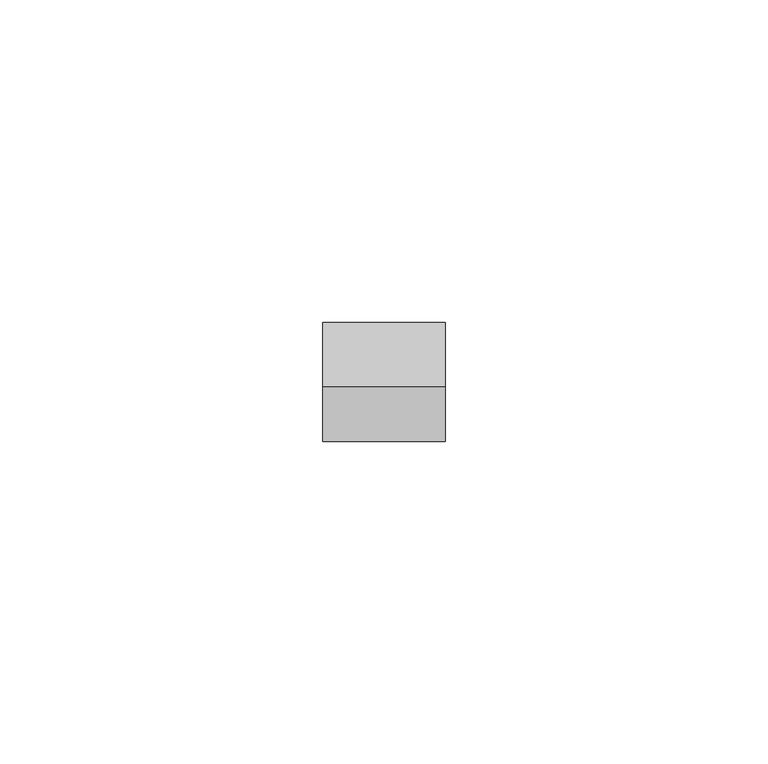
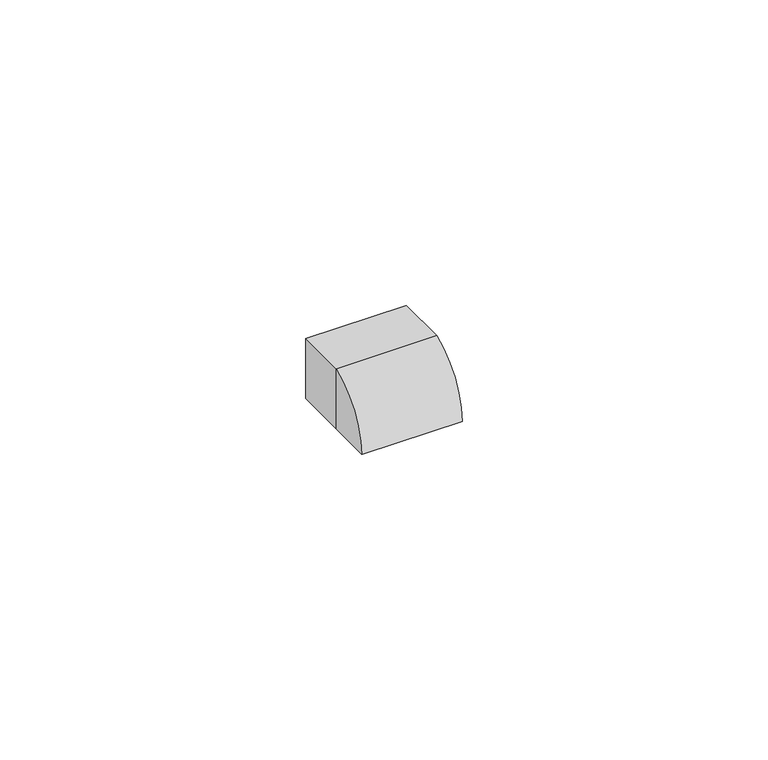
"""IFC4 building model written with IfcOpenShell, lengths in millimetres: proxy geometry, Заглушка_кабельной_трассы КМЗ : Заглушка кабельной трассы КМЗ 15х10."""

from ifc_helpers import new_model, si_unit, frame, origin, place, context, project, spatial, polyline, circle_curve, outline, extrude, source, transform, mapped, element, save
from ifc_brep_helpers import plane_surface, cylinder_surface, revolved_surface, advanced_brep


def generic_models_6c7df3c6(model_context):
    return source(origin(), model_context, "Body", "SolidModel", [
        advanced_brep(
        [(-33.0, -10.0, 0.0), (-33.0, -10.0, 12.0), (-33.0, -18.4167898, 0.0), (-52.0, -10.0, 0.0), (-52.0, -18.4167898, 0.0), (-52.0, -10.0, 12.0), (-35.0, -10.0, 0.0), (-35.0, -10.0, 10.0), (-50.0, -10.0, 10.0), (-50.0, -10.0, 0.0), (-50.0, -16.7136094, 0.0), (-35.0, -16.7136094, 0.0)],
        [
            (0, 1),
            (1, 2, circle_curve(frame((-33.0, -5.1340485, -0.3647388), z_axis=(1.0, 0.0, 0.0), x_axis=(0.0, 1.0, 0.0)), 13.2877481)),
            (2, 0),
            (3, 4),
            (4, 5, circle_curve(frame((-52.0, -5.1340485, -0.3647388), z_axis=(-1.0, 0.0, 0.0), x_axis=(0.0, 1.0, 0.0)), 13.2877481)),
            (5, 3),
            (0, 6),
            (6, 7),
            (7, 8),
            (8, 9),
            (9, 3),
            (5, 1),
            (4, 2),
            (9, 10),
            (10, 11),
            (11, 6),
            (11, 7, circle_curve(frame((-35.0, -4.8124322, -0.7363579), z_axis=(-1.0, 0.0, 0.0), x_axis=(0.0, 1.0, 0.0)), 11.9239356)),
            (8, 10, circle_curve(frame((-50.0, -4.8124322, -0.7363579), z_axis=(1.0, 0.0, 0.0), x_axis=(0.0, 1.0, 0.0)), 11.9239356)),
        ],
        [
            plane_surface(frame((-33.0, -10.0, 12.0), z_axis=(1.0, 0.0, 0.0), x_axis=(0.0, 0.0, 1.0))),
            plane_surface(frame((-52.0, -10.0, 12.0), z_axis=(-1.0, 0.0, 0.0), x_axis=(0.0, 0.0, -1.0))),
            plane_surface(frame((-33.0, -10.0, 0.0), z_axis=(0.0, 1.0, 0.0), x_axis=(-1.0, 0.0, 0.0))),
            cylinder_surface(frame((-52.0, -5.1340485, -0.3647388), z_axis=(1.0, 0.0, 0.0), x_axis=(0.0, 1.0, 0.0)), 13.2877481),
            plane_surface(frame((-33.0, -18.4167898, 0.0), z_axis=(0.0, 0.0, -1.0), x_axis=(-1.0, 0.0, 0.0))),
            plane_surface(frame((-35.0, -10.0, 10.0), z_axis=(-1.0, 0.0, 0.0), x_axis=(0.0, 0.0, 1.0))),
            plane_surface(frame((-50.0, -10.0, 10.0), z_axis=(1.0, 0.0, 0.0), x_axis=(0.0, 0.0, -1.0))),
            revolved_surface(polyline([(-35.0, 7.1115034, -0.7363579), (-50.0, 7.1115034, -0.7363579)]), (-50.0, -4.8124322, -0.7363579), (1.0, 0.0, 0.0)),
        ],
        [
            (0, [[1, 2, 3]]),
            (1, [[4, 5, 6]]),
            (2, [[-1, 7, 8, 9, 10, 11, -6, 12]]),
            (3, [[-2, -12, -5, 13]]),
            (4, [[-3, -13, -4, -11, 14, 15, 16, -7]]),
            (5, [[17, -8, -16]]),
            (6, [[18, -14, -10]]),
            (7, [[-17, -15, -18, -9]]),
        ],
    ),
        extrude(outline(polyline([(12.0, -33.0), (12.0, -52.0), (0.0, -52.0), (0.0, -50.0), (10.0, -50.0), (10.0, -35.0), (0.0, -35.0), (0.0, -33.0), (12.0, -33.0)])), frame((0.0, -10.0, 0.0), z_axis=(0.0, 1.0, 0.0), x_axis=(0.0, 0.0, 1.0)), (0.0, 0.0, 1.0), 10.0),
    ])


if __name__ == "__main__":
    model = new_model("IFC4")
    model_context = context("Model", 3, world=origin())
    ifc_project = project(units=[si_unit("LENGTHUNIT", "METRE", prefix="MILLI")], contexts=[model_context])
    site = spatial("IfcSite", under=ifc_project)
    building = spatial("IfcBuilding", under=site)
    placement = place(None, origin())
    generic_models_shape = generic_models_6c7df3c6(model_context)
    element("IfcBuildingElementProxy", 1, Name="Заглушка_кабельной_трассы КМЗ : Заглушка кабельной трассы КМЗ 15х10", ObjectType="Заглушка_кабельной_трассы КМЗ : Заглушка кабельной трассы КМЗ 15х10", at=placement, inside=building, context=model_context, shape_type="MappedRepresentation", body=[
        mapped(generic_models_shape, transform((0.0, 0.0, 0.0), x_axis=(1.0, 0.0, 0.0), y_axis=(0.0, 1.0, 0.0), z_axis=(0.0, 0.0, 1.0))),
    ])
    save(model, "model.ifc")
